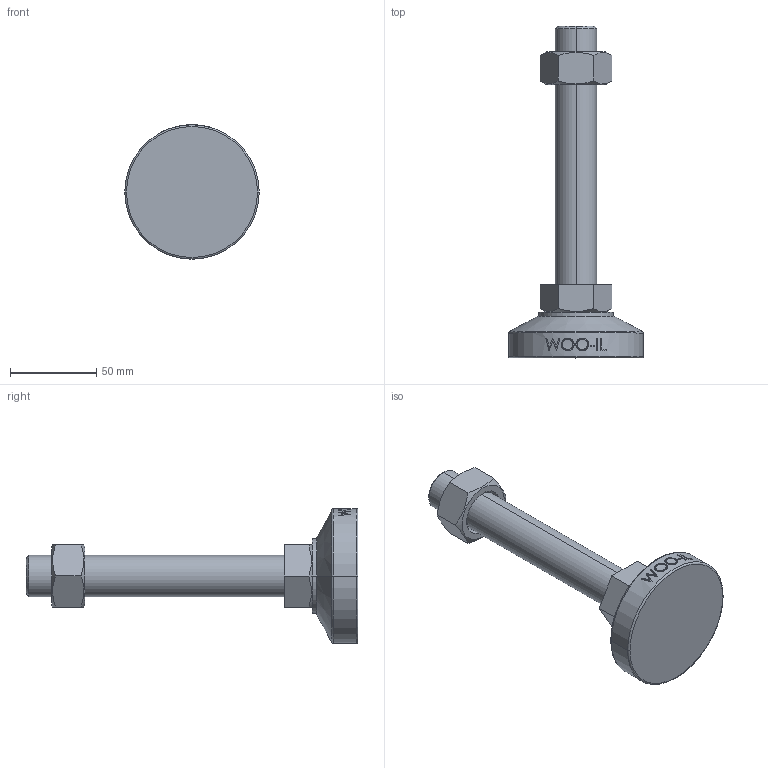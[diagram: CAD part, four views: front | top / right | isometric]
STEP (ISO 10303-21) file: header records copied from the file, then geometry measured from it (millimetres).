
FILE_DESCRIPTION (( 'STEP AP214' ), '1' );
FILE_NAME ('MFB78-M24-150.step', '2022-06-27T08:35:38', ( '' ), ( '' ), 'SwSTEP 2.0', 'SolidWorks 2019', '' );
FILE_SCHEMA (( 'AUTOMOTIVE_DESIGN' ));
Length unit declared in the file: millimetre
Products named in the file (1): MFB78-M24-150
Bounding box: 78 x 192.5 x 78 mm (x, y, z)
Volume: 200561.8 mm3; surface area: 34134.9 mm2
Topology: 3 solids, 3 shells, 97 faces, 229 edges, 148 vertices
Faces by surface type: plane 47, cylinder 16, bspline 16, cone 14, torus 4
Entity records: 4337 total; most frequent: CARTESIAN_POINT 2187, ORIENTED_EDGE 458, DIRECTION 385, EDGE_CURVE 229, VERTEX_POINT 148, AXIS2_PLACEMENT_3D 144, EDGE_LOOP 109, FACE_OUTER_BOUND 97
